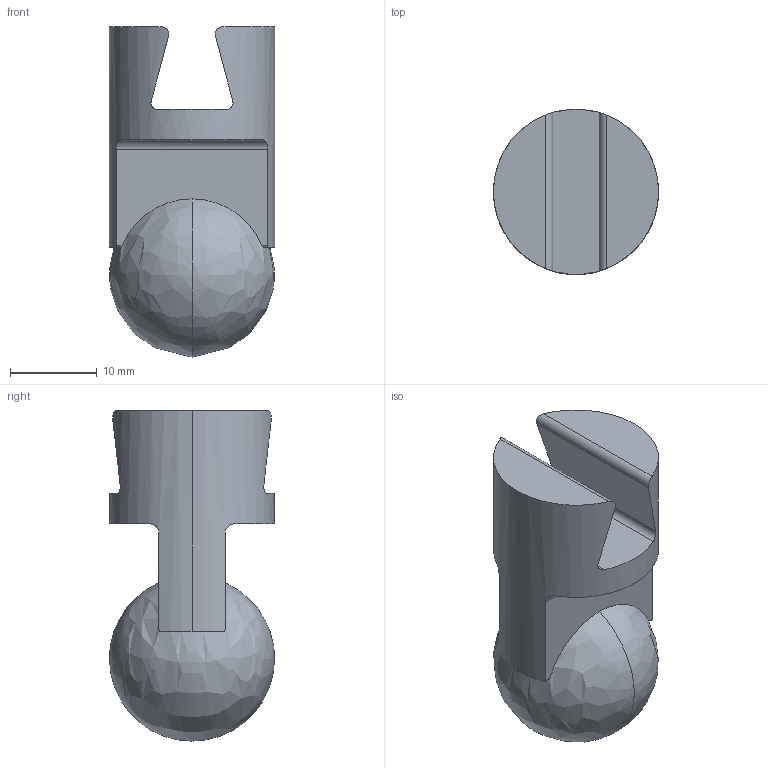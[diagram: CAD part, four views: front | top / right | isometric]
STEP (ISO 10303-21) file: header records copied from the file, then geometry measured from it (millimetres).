
FILE_DESCRIPTION (( 'STEP AP203' ), '1' );
FILE_NAME ('ALA20_20MM ADAPTOR_BALL.STEP', '2020-12-17T21:04:19', ( '' ), ( '' ), 'SwSTEP 2.0', 'SolidWorks 2020', '' );
FILE_SCHEMA (( 'CONFIG_CONTROL_DESIGN' ));
Length unit declared in the file: inch
Products named in the file (1): ALA20_20MM ADAPTOR_BALL
Bounding box: 19.05 x 19.05 x 38.1 mm (x, y, z)
Volume: 7195.5 mm3; surface area: 2903.5 mm2
Topology: 1 solids, 1 shells, 25 faces, 75 edges, 48 vertices
Faces by surface type: cylinder 12, plane 11, bspline 2
Entity records: 1067 total; most frequent: CARTESIAN_POINT 377, ORIENTED_EDGE 142, DIRECTION 112, EDGE_CURVE 71, VERTEX_POINT 48, AXIS2_PLACEMENT_3D 43, VECTOR 26, LINE 26
